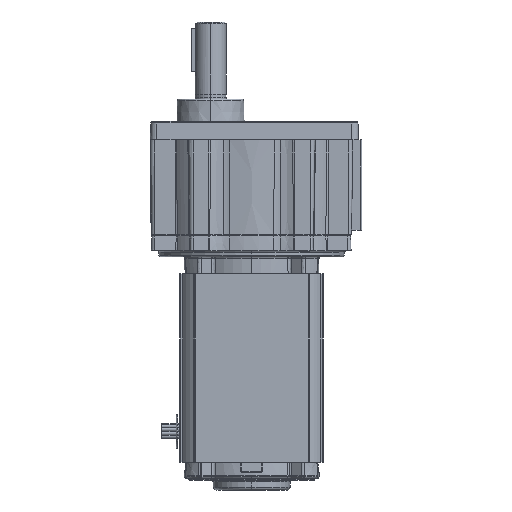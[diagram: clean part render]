
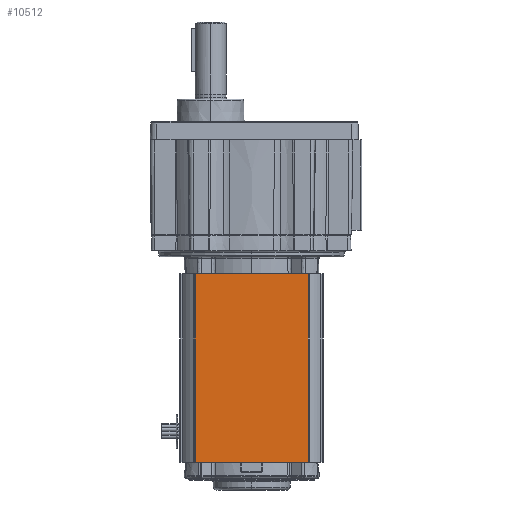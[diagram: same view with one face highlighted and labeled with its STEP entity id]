
A CAD part, left-side view. The second image highlights one B-rep face of the part: STEP entity #10512.
In plain terms, the highlighted planar face has unit normal (-1, 0, 0).
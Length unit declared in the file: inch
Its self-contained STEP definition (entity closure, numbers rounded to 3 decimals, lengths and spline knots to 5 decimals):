
#4350 = CARTESIAN_POINT ( 'NONE',  ( -1.442, 1.1355, -4.97904 ) ) ;
#7163 = VECTOR ( 'NONE', #20955, 39.37008 ) ;
#7690 = EDGE_LOOP ( 'NONE', ( #10190, #42018, #15455, #31350 ) ) ;
#9692 = VERTEX_POINT ( 'NONE', #20413 ) ;
#10190 = ORIENTED_EDGE ( 'NONE', *, *, #25303, .T. ) ;
#10512 = ADVANCED_FACE ( 'NONE', ( #18343 ), #54178, .T. ) ;
#10755 = AXIS2_PLACEMENT_3D ( 'NONE', #22314, #54387, #26922 ) ;
#11296 = CARTESIAN_POINT ( 'NONE',  ( -1.442, -1.1355, -1.11104 ) ) ;
#11731 = CARTESIAN_POINT ( 'NONE',  ( -1.442, -1.1555, -1.11104 ) ) ;
#12419 = LINE ( 'NONE', #55688, #23214 ) ;
#12780 = VERTEX_POINT ( 'NONE', #26398 ) ;
#13828 = LINE ( 'NONE', #4350, #47545 ) ;
#15455 = ORIENTED_EDGE ( 'NONE', *, *, #33643, .T. ) ;
#16317 = CARTESIAN_POINT ( 'NONE',  ( -1.442, -1.1355, -4.90604 ) ) ;
#18343 = FACE_OUTER_BOUND ( 'NONE', #7690, .T. ) ;
#18464 = EDGE_CURVE ( 'NONE', #9692, #53961, #54367, .T. ) ;
#20413 = CARTESIAN_POINT ( 'NONE',  ( -1.442, 1.1355, -1.11104 ) ) ;
#20778 = LINE ( 'NONE', #16317, #7163 ) ;
#20955 = DIRECTION ( 'NONE',  ( 0., 1., 0. ) ) ;
#21410 = VERTEX_POINT ( 'NONE', #39583 ) ;
#22314 = CARTESIAN_POINT ( 'NONE',  ( -1.442, -1.1555, -4.97904 ) ) ;
#23214 = VECTOR ( 'NONE', #42074, 39.37008 ) ;
#25303 = EDGE_CURVE ( 'NONE', #9692, #12780, #13828, .T. ) ;
#26398 = CARTESIAN_POINT ( 'NONE',  ( -1.442, 1.1355, -4.90604 ) ) ;
#26922 = DIRECTION ( 'NONE',  ( 0., 0., 1. ) ) ;
#29967 = VECTOR ( 'NONE', #43813, 39.37008 ) ;
#31350 = ORIENTED_EDGE ( 'NONE', *, *, #18464, .F. ) ;
#33643 = EDGE_CURVE ( 'NONE', #21410, #53961, #12419, .T. ) ;
#36414 = DIRECTION ( 'NONE',  ( 0., 0., -1. ) ) ;
#39583 = CARTESIAN_POINT ( 'NONE',  ( -1.442, -1.1355, -4.90604 ) ) ;
#41102 = EDGE_CURVE ( 'NONE', #21410, #12780, #20778, .T. ) ;
#42018 = ORIENTED_EDGE ( 'NONE', *, *, #41102, .F. ) ;
#42074 = DIRECTION ( 'NONE',  ( 0., 0., 1. ) ) ;
#43813 = DIRECTION ( 'NONE',  ( 0., -1., 0. ) ) ;
#47545 = VECTOR ( 'NONE', #36414, 39.37008 ) ;
#53961 = VERTEX_POINT ( 'NONE', #11296 ) ;
#54178 = PLANE ( 'NONE',  #10755 ) ;
#54367 = LINE ( 'NONE', #11731, #29967 ) ;
#54387 = DIRECTION ( 'NONE',  ( -1., 0., 0. ) ) ;
#55688 = CARTESIAN_POINT ( 'NONE',  ( -1.442, -1.1355, -4.97904 ) ) ;
